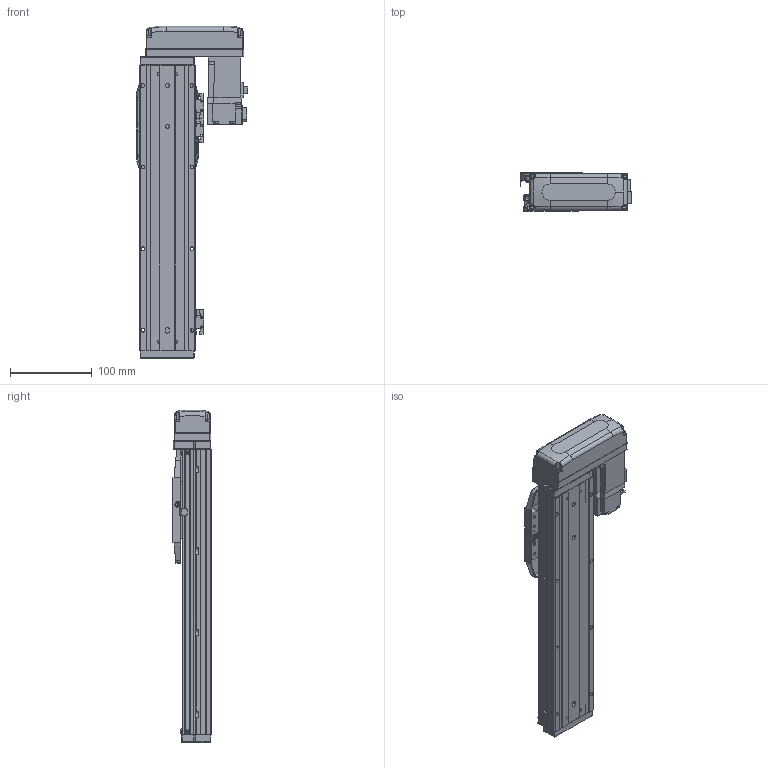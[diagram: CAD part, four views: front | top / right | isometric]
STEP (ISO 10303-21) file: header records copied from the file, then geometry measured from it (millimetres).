
FILE_DESCRIPTION (( 'STEP AP203' ), '1' );
FILE_NAME ('CTHA60-200-BL-M10-C4L.step', '2022-03-19T06:13:28', ( '微软用户' ), ( '微软中国' ), 'SwSTEP 2.0', 'SolidWorks 2020', '' );
FILE_SCHEMA (( 'CONFIG_CONTROL_DESIGN' ));
Length unit declared in the file: millimetre
Products named in the file (18): CTHA60-017; HG-KR13（三菱）; CTHA60-021; CTHA60-002; CTHA60-001_350; GBT 70.1-M4×16; CTHA60-031; CTHA60-004; GBT77-2000 M3×3; CTHA60-006-1; CTHA60-005; GBT 70.1-M3℅6; CTHA60-033; GB¨uT 70.2-M3¡Á6_M3¡Á6; GBT 70.3-M3℅6; CTHA60-200-BL-M10-C4L; EE_SX911P_R; CTHA60-016
Assembly tree (54 placements, depth 2):
  CTHA60-200-BL-M10-C4L
    CTHA60-001_350
    CTHA60-004
    CTHA60-005
    GB¨uT 70.2-M3¡Á6_M3¡Á6  x10
    EE_SX911P_R  x3
    CTHA60-017  x3
    CTHA60-021  x2
    GBT 70.1-M4×16  x10
    GBT77-2000 M3×3  x6
    GBT 70.1-M3℅6  x6
    GBT 70.3-M3℅6  x4
    CTHA60-016  x2
    HG-KR13（三菱）
    CTHA60-002
    CTHA60-031
    CTHA60-006-1
    CTHA60-033
Bounding box: 137.1 x 48 x 407 mm (x, y, z)
Volume: 836177.7 mm3; surface area: 268563.8 mm2
Topology: 56 solids, 56 shells, 2454 faces, 5869 edges, 3613 vertices
Faces by surface type: plane 1413, cylinder 559, cone 334, torus 92, bspline 32, sphere 24
Entity records: 43073 total; most frequent: CARTESIAN_POINT 8362, DIRECTION 6616, ORIENTED_EDGE 6546, EDGE_CURVE 3273, VECTOR 2316, LINE 2316, AXIS2_PLACEMENT_3D 2150, VERTEX_POINT 2072
